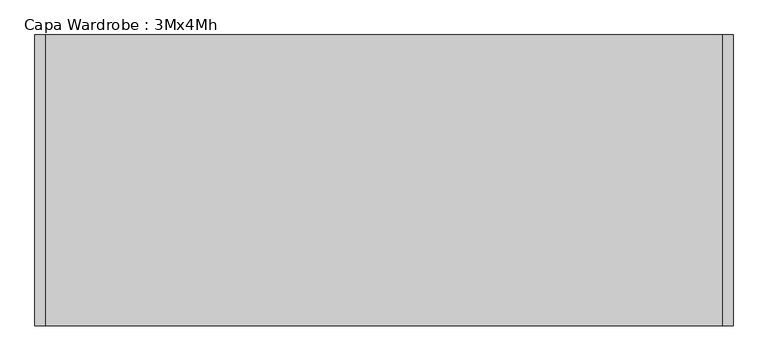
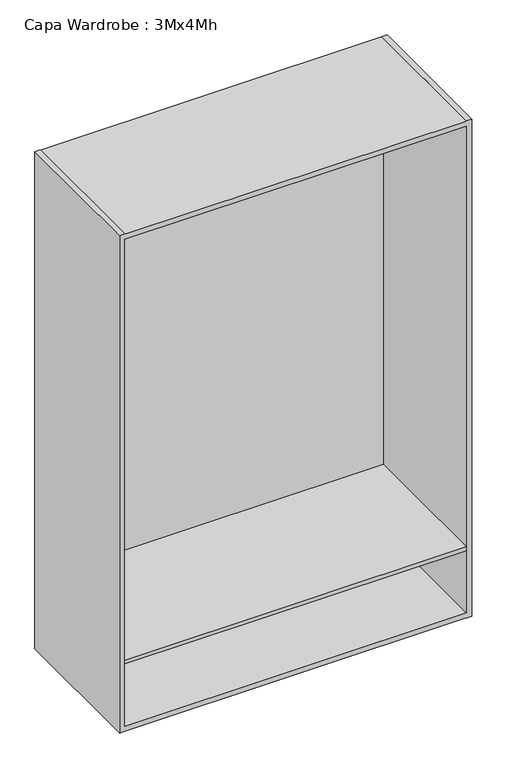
"""IFC4 building model written with IfcOpenShell, lengths in millimetres: furniture geometry, Capa Wardrobe : 3Mx4Mh."""

from ifc_helpers import new_model, si_unit, point, frame, frame_2d, origin, place, context, project, spatial, polyline, circle_curve, trimmed, segment, composite_curve, outline, extrude, faceted_brep, source, transform, mapped, element, save


def capa_wardrobe_3mx4mh_ba975b59(model_context):
    return source(origin(), model_context, "Body", "SolidModel", [
        extrude(outline(polyline([(582.0, -500.0), (-582.0, -500.0), (-582.0, -10.0), (582.0, -10.0), (582.0, -500.0)])), frame((0.0, 0.0, 243.0), z_axis=(0.0, 0.0, 1.0), x_axis=(1.0, 0.0, 0.0)), (0.0, 0.0, 1.0), 14.0),
        extrude(outline(composite_curve([segment(polyline([(-250.0, 1692.0), (-250.0, 1672.0)]), True, "CONTINUOUS"), segment(trimmed(circle_curve(frame_2d((-258.0, 1672.0)), 8.0), [point((-250.0, 1672.0))], [point((-266.0, 1672.0))], False, "CARTESIAN"), True, "CONTINUOUS"), segment(polyline([(-266.0, 1672.0), (-266.0, 1692.0)]), True, "CONTINUOUS"), segment(trimmed(circle_curve(frame_2d((-258.0, 1692.0)), 8.0), [point((-266.0, 1692.0))], [point((-250.0, 1692.0))], False, "CARTESIAN"), True, "CONTINUOUS")], self_intersect=False)), frame((-582.0, 0.0, 0.0), z_axis=(1.0, 0.0, 0.0), x_axis=(0.0, 1.0, 0.0)), (0.0, 0.0, 1.0), 1164.0),
        faceted_brep([(-582.0, 0.0, 1792.0), (-582.0, 0.0, 1791.0), (582.0, 0.0, 1791.0), (582.0, 0.0, 1792.0), (600.0, 0.0, 1792.0), (600.0, 0.0, 0.0), (582.0, 0.0, 0.0), (582.0, 0.0, 1.0), (-582.0, 0.0, 1.0), (-582.0, 0.0, 0.0), (-600.0, 0.0, 0.0), (-600.0, 0.0, 1792.0), (582.0, -10.0, 19.0), (582.0, -10.0, 1773.0), (-582.0, -10.0, 1773.0), (-582.0, -10.0, 19.0), (-582.0, -500.0, 1792.0), (-600.0, -500.0, 1792.0), (-600.0, -500.0, 0.0), (-582.0, -500.0, 0.0), (-582.0, -500.0, 1.0), (582.0, -500.0, 1.0), (582.0, -500.0, 0.0), (600.0, -500.0, 0.0), (600.0, -500.0, 1792.0), (582.0, -500.0, 1792.0), (582.0, -500.0, 1791.0), (-582.0, -500.0, 1791.0), (582.0, -500.0, 1773.0), (582.0, -500.0, 19.0), (-582.0, -500.0, 19.0), (-582.0, -500.0, 1773.0)], [[[0, 1, 2, 3, 4, 5, 6, 7, 8, 9, 10, 11]], [[12, 13, 14, 15]], [[16, 17, 18, 19, 20, 21, 22, 23, 24, 25, 26, 27], [28, 29, 30, 31]], [[17, 16, 0, 11]], [[18, 17, 11, 10]], [[23, 22, 6, 5]], [[24, 23, 5, 4]], [[19, 18, 10, 9]], [[20, 19, 9, 8]], [[21, 20, 8, 7]], [[22, 21, 7, 6]], [[25, 24, 4, 3]], [[26, 25, 3, 2]], [[27, 26, 2, 1]], [[16, 27, 1, 0]], [[29, 28, 13, 12]], [[30, 29, 12, 15]], [[31, 30, 15, 14]], [[28, 31, 14, 13]]]),
    ])


if __name__ == "__main__":
    model = new_model("IFC4")
    model_context = context("Model", 3, world=origin())
    ifc_project = project(units=[si_unit("LENGTHUNIT", "METRE", prefix="MILLI")], contexts=[model_context])
    site = spatial("IfcSite", under=ifc_project)
    building = spatial("IfcBuilding", under=site)
    placement = place(None, origin())
    capa_wardrobe_3mx4mh_shape = capa_wardrobe_3mx4mh_ba975b59(model_context)
    element("IfcFurniture", 1, ObjectType="Capa Wardrobe : 3Mx4Mh", at=placement, inside=building, context=model_context, shape_type="MappedRepresentation", body=[
        mapped(capa_wardrobe_3mx4mh_shape, transform((0.0, 0.0, 0.0), x_axis=(1.0, 0.0, 0.0), y_axis=(0.0, 1.0, 0.0), z_axis=(0.0, 0.0, 1.0))),
    ])
    save(model, "model.ifc")
